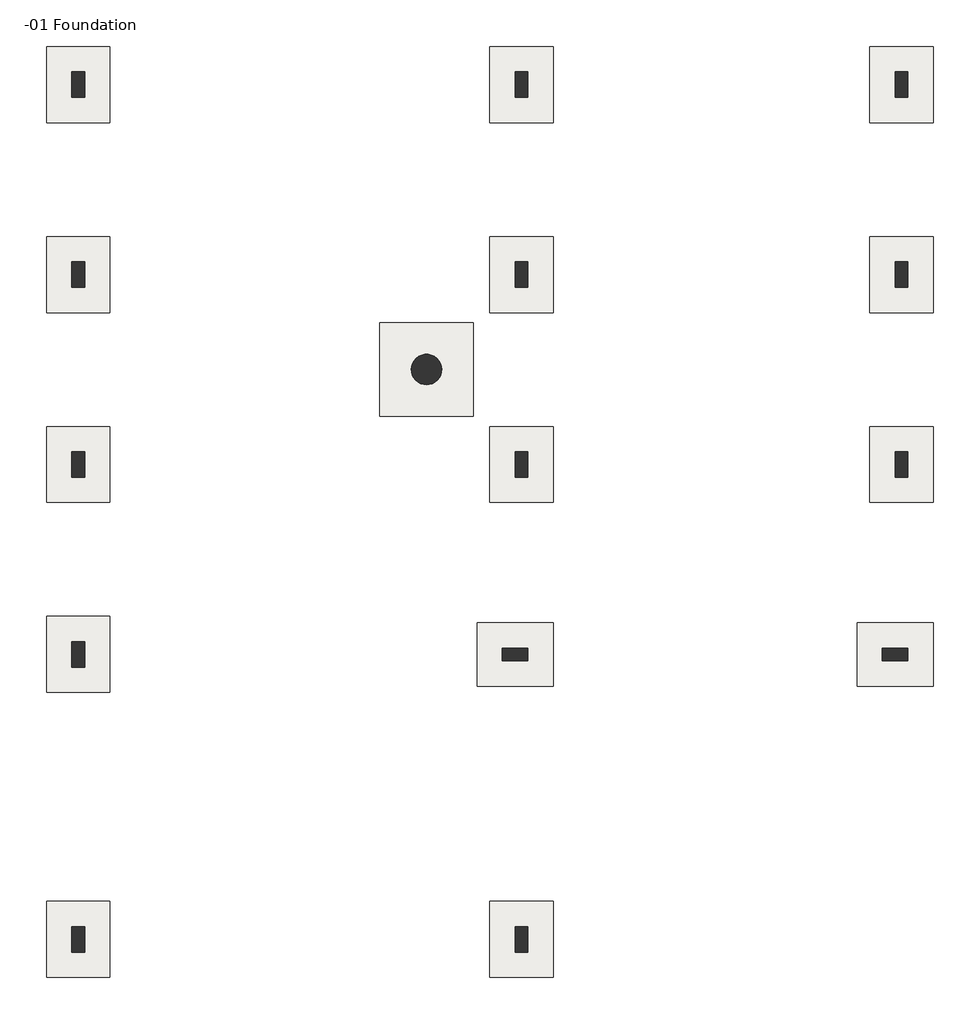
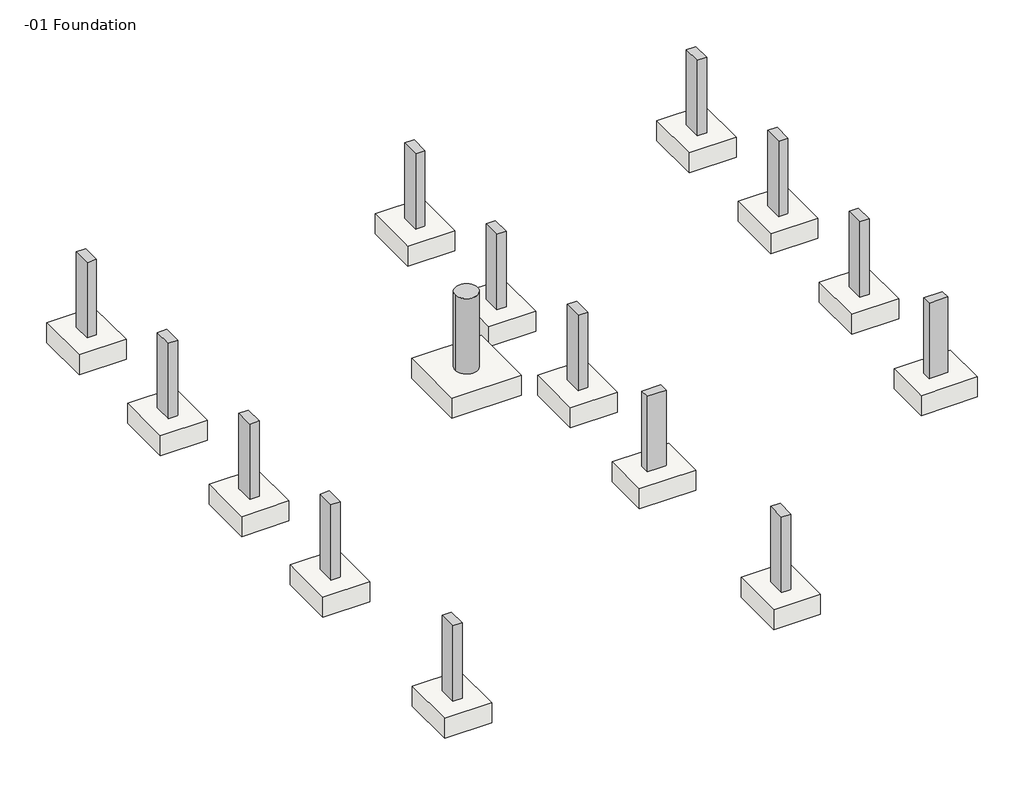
# One storey: 15 columns, 15 slabs.
"""IFC4 building model written with IfcOpenShell, lengths in millimetres."""

import ifcopenshell
import ifcopenshell.guid

model = None  # the IFC model being written
_history = None  # IfcOwnerHistory: only IFC2X3 demands one
_inside = {}  # id of a spatial element -> (the spatial element, [elements in it])
_under = {}  # id of a project, library or spatial element -> (it, [spatial elements below it])
_declared = {}  # id of a project -> (the project, [libraries it declares])
_typed = {}  # id of a type object -> (the type object, [elements of that type])
_made_of = {}  # id of a material, layer set ... -> (it, [elements and type objects made of it])


def new_model(schema):
    """Start an empty IFC model of exactly this schema.

    Asked for "IFC4X3", IfcOpenShell would pick the latest addendum, in which some entities
    have other attributes; the version numbers below select the first issue.
    IFC2X3 requires an IfcOwnerHistory on every rooted entity: one is made here for all.
    """
    global model, _history
    if schema == "IFC4X3":
        model = ifcopenshell.file(schema_version=(4, 3, 0, 0))
    else:
        model = ifcopenshell.file(schema=schema)
    _inside.clear()
    _under.clear()
    _declared.clear()
    _typed.clear()
    _made_of.clear()
    _history = None
    if model.schema == "IFC2X3":
        org = make("IfcOrganization", Name="unknown")
        user = make(
            "IfcPersonAndOrganization",
            ThePerson=make("IfcPerson", FamilyName="unknown"),
            TheOrganization=org,
        )
        app = make(
            "IfcApplication",
            ApplicationDeveloper=org,
            Version="unknown",
            ApplicationFullName="unknown",
            ApplicationIdentifier="unknown",
        )
        _history = make(
            "IfcOwnerHistory",
            OwningUser=user,
            OwningApplication=app,
            ChangeAction="ADDED",
            CreationDate=0,
        )
    return model


def make(cls, **values):
    """One entity of the class cls with the attributes given. An attribute that is None is left unset."""
    return model.create_entity(
        cls, **{name: value for name, value in values.items() if value is not None}
    )


def rooted(cls, **values):
    """An entity with a GlobalId (a new one), such as an element, a storey or a relation."""
    return make(cls, GlobalId=ifcopenshell.guid.new(), OwnerHistory=_history, **values)


def si_unit(unit_type, name, prefix=None):
    """IfcSIUnit, for example si_unit("LENGTHUNIT", "METRE", prefix="MILLI")."""
    return make("IfcSIUnit", UnitType=unit_type, Prefix=prefix, Name=name)


def assignment(units):
    """IfcUnitAssignment: the units of a project."""
    return None if units is None else make("IfcUnitAssignment", Units=units)


def point(xyz):
    """IfcCartesianPoint."""
    return None if xyz is None else make("IfcCartesianPoint", Coordinates=xyz)


def direction(xyz):
    """IfcDirection."""
    return None if xyz is None else make("IfcDirection", DirectionRatios=xyz)


def frame(location, z_axis=None, x_axis=None):
    """IfcAxis2Placement3D, a coordinate frame: its origin and axes. An axis left out is left unset."""
    return make(
        "IfcAxis2Placement3D",
        Location=point(location),
        Axis=direction(z_axis),
        RefDirection=direction(x_axis),
    )


def frame_2d(location, x_axis=None):
    """IfcAxis2Placement2D, a coordinate frame in the plane: its origin and x axis."""
    return make(
        "IfcAxis2Placement2D", Location=point(location), RefDirection=direction(x_axis)
    )


def origin():
    """The frame at (0, 0, 0) with its axes left unset."""
    return frame((0.0, 0.0, 0.0))


def place(relative_to, where):
    """IfcLocalPlacement: puts the frame where relative to a parent placement (None: the world)."""
    return make(
        "IfcLocalPlacement", PlacementRelTo=relative_to, RelativePlacement=where
    )


def context(
    kind, dimensions, precision=None, world=None, true_north=None, identifier=None
):
    """IfcGeometricRepresentationContext, for example the 3D "Model" context."""
    return make(
        "IfcGeometricRepresentationContext",
        ContextIdentifier=identifier,
        ContextType=kind,
        CoordinateSpaceDimension=dimensions,
        Precision=precision,
        WorldCoordinateSystem=world,
        TrueNorth=true_north,
    )


def project(units=None, contexts=None):
    """IfcProject with its units and contexts."""
    return rooted(
        "IfcProject",
        Name="project",
        RepresentationContexts=contexts,
        UnitsInContext=assignment(units),
    )


def spatial(cls, under=None, at=None, **own):
    """A site, building, storey or space (cls), placed at a placement, below another one or the project."""
    s = rooted(cls, ObjectPlacement=at, **own)
    if under is not None:
        _under.setdefault(under.id(), (under, []))[1].append(s)
    return s


def polyline(points):
    """IfcPolyline through the points."""
    return make("IfcPolyline", Points=[point(p) for p in points])


def circle_curve(where, radius):
    """IfcCircle in the frame where."""
    return make("IfcCircle", Position=where, Radius=radius)


def trimmed(basis, trim1, trim2, sense, master):
    """IfcTrimmedCurve: the piece of a basis curve between two trims."""
    return make(
        "IfcTrimmedCurve",
        BasisCurve=basis,
        Trim1=trim1,
        Trim2=trim2,
        SenseAgreement=sense,
        MasterRepresentation=master,
    )


def segment(curve, same_sense, transition):
    """IfcCompositeCurveSegment."""
    return make(
        "IfcCompositeCurveSegment",
        Transition=transition,
        SameSense=same_sense,
        ParentCurve=curve,
    )


def composite_curve(segments, self_intersect=None):
    """IfcCompositeCurve: segments joined end to end."""
    return make("IfcCompositeCurve", Segments=segments, SelfIntersect=self_intersect)


def outline(outer, holes=None, kind="AREA"):
    """IfcArbitraryClosedProfileDef: a profile drawn as a closed curve; with holes, ...WithVoids."""
    if holes is None:
        return make("IfcArbitraryClosedProfileDef", ProfileType=kind, OuterCurve=outer)
    return make(
        "IfcArbitraryProfileDefWithVoids",
        ProfileType=kind,
        OuterCurve=outer,
        InnerCurves=holes,
    )


def extrude(swept, where, along, depth):
    """IfcExtrudedAreaSolid: the profile swept, set in the frame where, extruded along a direction by depth."""
    return make(
        "IfcExtrudedAreaSolid",
        SweptArea=swept,
        Position=where,
        ExtrudedDirection=direction(along),
        Depth=depth,
    )


def shape(context_of_items, identifier, shape_type, items):
    """IfcShapeRepresentation: the items that make up one representation, for example the "Body"."""
    return make(
        "IfcShapeRepresentation",
        ContextOfItems=context_of_items,
        RepresentationIdentifier=identifier,
        RepresentationType=shape_type,
        Items=items,
    )


def source(mapping_origin, context_of_items, identifier, shape_type, items):
    """IfcRepresentationMap: a shape defined once, which mapped items show again and again."""
    return make(
        "IfcRepresentationMap",
        MappingOrigin=mapping_origin,
        MappedRepresentation=shape(context_of_items, identifier, shape_type, items),
    )


def transform(
    local_origin,
    x_axis=None,
    y_axis=None,
    z_axis=None,
    scale=None,
    scale2=None,
    scale3=None,
    uniform=True,
):
    """IfcCartesianTransformationOperator3D, or its non-uniform kind. x_axis, y_axis, z_axis: its Axis1, 2, 3."""
    if uniform:
        return make(
            "IfcCartesianTransformationOperator3D",
            Axis1=direction(x_axis),
            Axis2=direction(y_axis),
            LocalOrigin=point(local_origin),
            Scale=scale,
            Axis3=direction(z_axis),
        )
    return make(
        "IfcCartesianTransformationOperator3DnonUniform",
        Axis1=direction(x_axis),
        Axis2=direction(y_axis),
        LocalOrigin=point(local_origin),
        Scale=scale,
        Axis3=direction(z_axis),
        Scale2=scale2,
        Scale3=scale3,
    )


def mapped(mapping_source, mapping_target):
    """IfcMappedItem: shows the shape of a source again, moved by a transform."""
    return make(
        "IfcMappedItem", MappingSource=mapping_source, MappingTarget=mapping_target
    )


def made_of(thing, what):
    """Note that an element or type object is made of a material, layer set ...; save() writes the relation."""
    if what is not None:
        _made_of.setdefault(what.id(), (what, []))[1].append(thing)
    return thing


def element(
    cls,
    number,
    at=None,
    inside=None,
    cuts=None,
    type_object=None,
    material=None,
    context=None,
    identifier="Body",
    shape_type=None,
    held_by="IfcProductDefinitionShape",
    body=None,
    shapes=None,
    **own,
):
    """One element of the class cls, such as IfcWall. Its Tag is "e" and its number.

    at: its placement. inside: the storey or other place that contains it. cuts: it is an
    opening in that element (IfcRelVoidsElement). A single representation is given by context,
    identifier, shape_type and body (its items); several are given by shapes. held_by: the class
    of the entity that holds the representations. save() writes the other relations.
    """
    e = rooted(cls, Tag="e%d" % number, ObjectPlacement=at, **own)
    if body is not None:
        shapes = [shape(context, identifier, shape_type, body)]
    if shapes is not None:
        e.Representation = make(held_by, Representations=shapes)
    if inside is not None:
        _inside.setdefault(inside.id(), (inside, []))[1].append(e)
    if cuts is not None:
        rooted(
            "IfcRelVoidsElement", RelatingBuildingElement=cuts, RelatedOpeningElement=e
        )
    if type_object is not None:
        _typed.setdefault(type_object.id(), (type_object, []))[1].append(e)
    return made_of(e, material)


def aggregate(whole, parts):
    """IfcRelAggregates: a whole, such as a stair, and the parts it consists of."""
    return rooted("IfcRelAggregates", RelatingObject=whole, RelatedObjects=parts)


def save(model, path):
    """Write the relations noted so far, then the file.

    IfcRelAggregates (storeys below a building ...), IfcRelContainedInSpatialStructure (elements
    in a storey), IfcRelDefinesByType, IfcRelAssociatesMaterial and IfcRelDeclares: one each for
    every whole, place, type object, material and project.
    """
    for whole, parts in _under.values():
        aggregate(whole, parts)
    for where, things in _inside.values():
        rooted(
            "IfcRelContainedInSpatialStructure",
            RelatedElements=things,
            RelatingStructure=where,
        )
    for kind, things in _typed.values():
        rooted("IfcRelDefinesByType", RelatedObjects=things, RelatingType=kind)
    for what, things in _made_of.values():
        rooted("IfcRelAssociatesMaterial", RelatedObjects=things, RelatingMaterial=what)
    for by, libraries in _declared.values():
        rooted("IfcRelDeclares", RelatingContext=by, RelatedDefinitions=libraries)
    model.write(path)


def m_footing_rectangular_1000_x_1200_x_450mm_b4386320(model_context):
    return source(origin(), model_context, "Body", "SweptSolid", [
        extrude(outline(polyline([(600.0, 500.0), (600.0, -500.0), (-600.0, -500.0), (-600.0, 500.0), (600.0, 500.0)])), frame((0.0, 0.0, -450.0), z_axis=(0.0, 0.0, 1.0), x_axis=(1.0, 0.0, 0.0)), (0.0, 0.0, 1.0), 450.0),
    ])


def m_footing_rectangular_1480_x_1480_x_450mm_d3d8ddf0(model_context):
    return source(origin(), model_context, "Body", "SweptSolid", [
        extrude(outline(polyline([(740.0, 740.0), (740.0, -740.0), (-740.0, -740.0), (-740.0, 740.0), (740.0, 740.0)])), frame((0.0, 0.0, -450.0), z_axis=(0.0, 0.0, 1.0), x_axis=(1.0, 0.0, 0.0)), (0.0, 0.0, 1.0), 450.0),
    ])


model = new_model("IFC4")

# Units and contexts
model_context = context("Model", 3, world=origin())
ifc_project = project(units=[si_unit("LENGTHUNIT", "METRE", prefix="MILLI")], contexts=[model_context])

# Site, building, storey
site = spatial("IfcSite", under=ifc_project)
building = spatial("IfcBuilding", under=site)
storey = spatial("IfcBuildingStorey", under=building, Name="-01 Foundation", Elevation=-2000.0)

# Columns
placement = place(None, origin())
element("IfcColumn", 1, ObjectType="M_Concrete-Rectangular-Column : 200 x 400mm", at=placement, inside=storey, context=model_context, shape_type="SweptSolid", body=[
    extrude(outline(polyline([(-8122.5407999, 6337.2898352), (-8122.5407999, 5937.2898352), (-8322.5407999, 5937.2898352), (-8322.5407999, 6337.2898352), (-8122.5407999, 6337.2898352)])), frame((0.0, 0.0, -2000.0), z_axis=(0.0, 0.0, 1.0), x_axis=(1.0, 0.0, 0.0)), (0.0, 0.0, 1.0), 1700.0),
])
element("IfcColumn", 2, ObjectType="M_Concrete-Rectangular-Column : 200 x 400mm", at=placement, inside=storey, context=model_context, shape_type="SweptSolid", body=[
    extrude(outline(polyline([(-8122.5407999, 3337.2898352), (-8122.5407999, 2937.2898352), (-8322.5407999, 2937.2898352), (-8322.5407999, 3337.2898352), (-8122.5407999, 3337.2898352)])), frame((0.0, 0.0, -2000.0), z_axis=(0.0, 0.0, 1.0), x_axis=(1.0, 0.0, 0.0)), (0.0, 0.0, 1.0), 1700.0),
])
element("IfcColumn", 3, ObjectType="M_Concrete-Rectangular-Column : 200 x 400mm", at=placement, inside=storey, context=model_context, shape_type="SweptSolid", body=[
    extrude(outline(polyline([(-8122.5407999, 337.2898352), (-8122.5407999, -62.7101648), (-8322.5407999, -62.7101648), (-8322.5407999, 337.2898352), (-8122.5407999, 337.2898352)])), frame((0.0, 0.0, -2000.0), z_axis=(0.0, 0.0, 1.0), x_axis=(1.0, 0.0, 0.0)), (0.0, 0.0, 1.0), 1700.0),
])
element("IfcColumn", 4, ObjectType="M_Concrete-Rectangular-Column : 200 x 400mm", at=placement, inside=storey, context=model_context, shape_type="SweptSolid", body=[
    extrude(outline(polyline([(-8122.5407999, -2662.7101648), (-8122.5407999, -3062.7101648), (-8322.5407999, -3062.7101648), (-8322.5407999, -2662.7101648), (-8122.5407999, -2662.7101648)])), frame((0.0, 0.0, -2000.0), z_axis=(0.0, 0.0, 1.0), x_axis=(1.0, 0.0, 0.0)), (0.0, 0.0, 1.0), 1700.0),
])
element("IfcColumn", 5, ObjectType="M_Concrete-Rectangular-Column : 200 x 400mm", at=placement, inside=storey, context=model_context, shape_type="SweptSolid", body=[
    extrude(outline(polyline([(-1122.5407999, 337.2898352), (-1122.5407999, -62.7101648), (-1322.5407999, -62.7101648), (-1322.5407999, 337.2898352), (-1122.5407999, 337.2898352)])), frame((0.0, 0.0, -2000.0), z_axis=(0.0, 0.0, 1.0), x_axis=(1.0, 0.0, 0.0)), (0.0, 0.0, 1.0), 1700.0),
])
element("IfcColumn", 6, ObjectType="M_Concrete-Rectangular-Column : 200 x 400mm", at=placement, inside=storey, context=model_context, shape_type="SweptSolid", body=[
    extrude(outline(polyline([(-1522.5407999, -2762.7101648), (-1122.5407999, -2762.7101648), (-1122.5407999, -2962.7101648), (-1522.5407999, -2962.7101648), (-1522.5407999, -2762.7101648)])), frame((0.0, 0.0, -2000.0), z_axis=(0.0, 0.0, 1.0), x_axis=(1.0, 0.0, 0.0)), (0.0, 0.0, 1.0), 1700.0),
])
element("IfcColumn", 7, ObjectType="M_Concrete-Rectangular-Column : 200 x 400mm", at=placement, inside=storey, context=model_context, shape_type="SweptSolid", body=[
    extrude(outline(polyline([(4877.4592001, 6337.2898352), (4877.4592001, 5937.2898352), (4677.4592001, 5937.2898352), (4677.4592001, 6337.2898352), (4877.4592001, 6337.2898352)])), frame((0.0, 0.0, -2000.0), z_axis=(0.0, 0.0, 1.0), x_axis=(1.0, 0.0, 0.0)), (0.0, 0.0, 1.0), 1700.0),
])
element("IfcColumn", 8, ObjectType="M_Concrete-Rectangular-Column : 200 x 400mm", at=placement, inside=storey, context=model_context, shape_type="SweptSolid", body=[
    extrude(outline(polyline([(-1122.5407999, 6337.2898352), (-1122.5407999, 5937.2898352), (-1322.5407999, 5937.2898352), (-1322.5407999, 6337.2898352), (-1122.5407999, 6337.2898352)])), frame((0.0, 0.0, -2000.0), z_axis=(0.0, 0.0, 1.0), x_axis=(1.0, 0.0, 0.0)), (0.0, 0.0, 1.0), 1700.0),
])
element("IfcColumn", 9, ObjectType="M_Concrete-Rectangular-Column : 200 x 400mm", at=placement, inside=storey, context=model_context, shape_type="SweptSolid", body=[
    extrude(outline(polyline([(-1122.5407999, 3337.2898352), (-1122.5407999, 2937.2898352), (-1322.5407999, 2937.2898352), (-1322.5407999, 3337.2898352), (-1122.5407999, 3337.2898352)])), frame((0.0, 0.0, -2000.0), z_axis=(0.0, 0.0, 1.0), x_axis=(1.0, 0.0, 0.0)), (0.0, 0.0, 1.0), 1700.0),
])
element("IfcColumn", 10, ObjectType="M_Concrete-Rectangular-Column : 200 x 400mm", at=placement, inside=storey, context=model_context, shape_type="SweptSolid", body=[
    extrude(outline(polyline([(4877.4592001, 3337.2898352), (4877.4592001, 2937.2898352), (4677.4592001, 2937.2898352), (4677.4592001, 3337.2898352), (4877.4592001, 3337.2898352)])), frame((0.0, 0.0, -2000.0), z_axis=(0.0, 0.0, 1.0), x_axis=(1.0, 0.0, 0.0)), (0.0, 0.0, 1.0), 1700.0),
])
element("IfcColumn", 11, ObjectType="M_Concrete-Rectangular-Column : 200 x 400mm", at=placement, inside=storey, context=model_context, shape_type="SweptSolid", body=[
    extrude(outline(polyline([(4477.4592001, -2762.7101648), (4877.4592001, -2762.7101648), (4877.4592001, -2962.7101648), (4477.4592001, -2962.7101648), (4477.4592001, -2762.7101648)])), frame((0.0, 0.0, -2000.0), z_axis=(0.0, 0.0, 1.0), x_axis=(1.0, 0.0, 0.0)), (0.0, 0.0, 1.0), 1700.0),
])
element("IfcColumn", 12, ObjectType="M_Concrete-Rectangular-Column : 200 x 400mm", at=placement, inside=storey, context=model_context, shape_type="SweptSolid", body=[
    extrude(outline(polyline([(4677.4592001, -62.7101648), (4677.4592001, 337.2898352), (4877.4592001, 337.2898352), (4877.4592001, -62.7101648), (4677.4592001, -62.7101648)])), frame((0.0, 0.0, -2000.0), z_axis=(0.0, 0.0, 1.0), x_axis=(1.0, 0.0, 0.0)), (0.0, 0.0, 1.0), 1700.0),
])
element("IfcColumn", 13, ObjectType="M_Concrete-Rectangular-Column : 200 x 400mm", at=placement, inside=storey, context=model_context, shape_type="SweptSolid", body=[
    extrude(outline(polyline([(-8122.5407999, -7162.7101648), (-8122.5407999, -7562.7101648), (-8322.5407999, -7562.7101648), (-8322.5407999, -7162.7101648), (-8122.5407999, -7162.7101648)])), frame((0.0, 0.0, -2000.0), z_axis=(0.0, 0.0, 1.0), x_axis=(1.0, 0.0, 0.0)), (0.0, 0.0, 1.0), 1700.0),
])
element("IfcColumn", 14, ObjectType="M_Concrete-Rectangular-Column : 200 x 400mm", at=placement, inside=storey, context=model_context, shape_type="SweptSolid", body=[
    extrude(outline(polyline([(-1122.5407999, -7162.7101648), (-1122.5407999, -7562.7101648), (-1322.5407999, -7562.7101648), (-1322.5407999, -7162.7101648), (-1122.5407999, -7162.7101648)])), frame((0.0, 0.0, -2000.0), z_axis=(0.0, 0.0, 1.0), x_axis=(1.0, 0.0, 0.0)), (0.0, 0.0, 1.0), 1700.0),
])
element("IfcColumn", 15, ObjectType="M_Concrete-Round-Column : 480mm", at=placement, inside=storey, context=model_context, shape_type="SweptSolid", body=[
    extrude(outline(composite_curve([segment(trimmed(circle_curve(frame_2d((-2722.5407999, 1637.2898352)), 240.0), [point((-2962.5407999, 1637.2898352))], [point((-2482.5407999, 1637.2898352))], False, "CARTESIAN"), True, "CONTINUOUS"), segment(trimmed(circle_curve(frame_2d((-2722.5407999, 1637.2898352)), 240.0), [point((-2482.5407999, 1637.2898352))], [point((-2962.5407999, 1637.2898352))], False, "CARTESIAN"), True, "CONTINUOUS")], self_intersect=False)), frame((0.0, 0.0, -2000.0), z_axis=(0.0, 0.0, 1.0), x_axis=(1.0, 0.0, 0.0)), (0.0, 0.0, 1.0), 1700.0),
])

# Slabs
m_footing_rectangular_1000_x_1200_x_450mm_shape = m_footing_rectangular_1000_x_1200_x_450mm_b4386320(model_context)
element("IfcSlab", 16, ObjectType="M_Footing-Rectangular : 1000 x 1200 x 450mm", at=placement, inside=storey, context=model_context, shape_type="MappedRepresentation", body=[
    mapped(m_footing_rectangular_1000_x_1200_x_450mm_shape, transform((-8222.5407999, 6137.2898352, -2000.0), x_axis=(0.0, 1.0, 0.0), y_axis=(-1.0, 0.0, 0.0), z_axis=(0.0, 0.0, 1.0))),
])
element("IfcSlab", 17, ObjectType="M_Footing-Rectangular : 1000 x 1200 x 450mm", at=placement, inside=storey, context=model_context, shape_type="MappedRepresentation", body=[
    mapped(m_footing_rectangular_1000_x_1200_x_450mm_shape, transform((-8222.5407999, 3137.2898352, -2000.0), x_axis=(0.0, 1.0, 0.0), y_axis=(-1.0, 0.0, 0.0), z_axis=(0.0, 0.0, 1.0))),
])
element("IfcSlab", 18, ObjectType="M_Footing-Rectangular : 1000 x 1200 x 450mm", at=placement, inside=storey, context=model_context, shape_type="MappedRepresentation", body=[
    mapped(m_footing_rectangular_1000_x_1200_x_450mm_shape, transform((-8222.5407999, 137.2898352, -2000.0), x_axis=(0.0, 1.0, 0.0), y_axis=(-1.0, 0.0, 0.0), z_axis=(0.0, 0.0, 1.0))),
])
element("IfcSlab", 19, ObjectType="M_Footing-Rectangular : 1000 x 1200 x 450mm", at=placement, inside=storey, context=model_context, shape_type="MappedRepresentation", body=[
    mapped(m_footing_rectangular_1000_x_1200_x_450mm_shape, transform((4677.4592001, -2862.7101648, -2000.0), x_axis=(-1.0, 0.0, 0.0), y_axis=(0.0, -1.0, 0.0), z_axis=(0.0, 0.0, 1.0))),
])
element("IfcSlab", 20, ObjectType="M_Footing-Rectangular : 1000 x 1200 x 450mm", at=placement, inside=storey, context=model_context, shape_type="MappedRepresentation", body=[
    mapped(m_footing_rectangular_1000_x_1200_x_450mm_shape, transform((-8222.5407999, -2862.7101648, -2000.0), x_axis=(0.0, 1.0, 0.0), y_axis=(-1.0, 0.0, 0.0), z_axis=(0.0, 0.0, 1.0))),
])
element("IfcSlab", 21, ObjectType="M_Footing-Rectangular : 1000 x 1200 x 450mm", at=placement, inside=storey, context=model_context, shape_type="MappedRepresentation", body=[
    mapped(m_footing_rectangular_1000_x_1200_x_450mm_shape, transform((-8222.5407999, -7362.7101648, -2000.0), x_axis=(0.0, 1.0, 0.0), y_axis=(-1.0, 0.0, 0.0), z_axis=(0.0, 0.0, 1.0))),
])
element("IfcSlab", 22, ObjectType="M_Footing-Rectangular : 1000 x 1200 x 450mm", at=placement, inside=storey, context=model_context, shape_type="MappedRepresentation", body=[
    mapped(m_footing_rectangular_1000_x_1200_x_450mm_shape, transform((-1222.5407999, -7362.7101648, -2000.0), x_axis=(0.0, 1.0, 0.0), y_axis=(-1.0, 0.0, 0.0), z_axis=(0.0, 0.0, 1.0))),
])
element("IfcSlab", 23, ObjectType="M_Footing-Rectangular : 1000 x 1200 x 450mm", at=placement, inside=storey, context=model_context, shape_type="MappedRepresentation", body=[
    mapped(m_footing_rectangular_1000_x_1200_x_450mm_shape, transform((-1322.5407999, -2862.7101648, -2000.0), x_axis=(-1.0, 0.0, 0.0), y_axis=(0.0, -1.0, 0.0), z_axis=(0.0, 0.0, 1.0))),
])
element("IfcSlab", 24, ObjectType="M_Footing-Rectangular : 1000 x 1200 x 450mm", at=placement, inside=storey, context=model_context, shape_type="MappedRepresentation", body=[
    mapped(m_footing_rectangular_1000_x_1200_x_450mm_shape, transform((-1222.5407999, 137.2898352, -2000.0), x_axis=(0.0, -1.0, 0.0), y_axis=(1.0, 0.0, 0.0), z_axis=(0.0, 0.0, 1.0))),
])
element("IfcSlab", 25, ObjectType="M_Footing-Rectangular : 1000 x 1200 x 450mm", at=placement, inside=storey, context=model_context, shape_type="MappedRepresentation", body=[
    mapped(m_footing_rectangular_1000_x_1200_x_450mm_shape, transform((-1222.5407999, 3137.2898352, -2000.0), x_axis=(0.0, -1.0, 0.0), y_axis=(1.0, 0.0, 0.0), z_axis=(0.0, 0.0, 1.0))),
])
element("IfcSlab", 26, ObjectType="M_Footing-Rectangular : 1000 x 1200 x 450mm", at=placement, inside=storey, context=model_context, shape_type="MappedRepresentation", body=[
    mapped(m_footing_rectangular_1000_x_1200_x_450mm_shape, transform((-1222.5407999, 6137.2898352, -2000.0), x_axis=(0.0, -1.0, 0.0), y_axis=(1.0, 0.0, 0.0), z_axis=(0.0, 0.0, 1.0))),
])
element("IfcSlab", 27, ObjectType="M_Footing-Rectangular : 1000 x 1200 x 450mm", at=placement, inside=storey, context=model_context, shape_type="MappedRepresentation", body=[
    mapped(m_footing_rectangular_1000_x_1200_x_450mm_shape, transform((4777.4592001, 6137.2898352, -2000.0), x_axis=(0.0, -1.0, 0.0), y_axis=(1.0, 0.0, 0.0), z_axis=(0.0, 0.0, 1.0))),
])
element("IfcSlab", 28, ObjectType="M_Footing-Rectangular : 1000 x 1200 x 450mm", at=placement, inside=storey, context=model_context, shape_type="MappedRepresentation", body=[
    mapped(m_footing_rectangular_1000_x_1200_x_450mm_shape, transform((4777.4592001, 3137.2898352, -2000.0), x_axis=(0.0, -1.0, 0.0), y_axis=(1.0, 0.0, 0.0), z_axis=(0.0, 0.0, 1.0))),
])
element("IfcSlab", 29, ObjectType="M_Footing-Rectangular : 1000 x 1200 x 450mm", at=placement, inside=storey, context=model_context, shape_type="MappedRepresentation", body=[
    mapped(m_footing_rectangular_1000_x_1200_x_450mm_shape, transform((4777.4592001, 137.2898352, -2000.0), x_axis=(0.0, -1.0, 0.0), y_axis=(1.0, 0.0, 0.0), z_axis=(0.0, 0.0, 1.0))),
])
m_footing_rectangular_1480_x_1480_x_450mm_shape = m_footing_rectangular_1480_x_1480_x_450mm_d3d8ddf0(model_context)
element("IfcSlab", 30, ObjectType="M_Footing-Rectangular : 1480 x 1480 x 450mm", at=placement, inside=storey, context=model_context, shape_type="MappedRepresentation", body=[
    mapped(m_footing_rectangular_1480_x_1480_x_450mm_shape, transform((-2722.5407999, 1637.2898352, -2000.0), x_axis=(1.0, 0.0, 0.0), y_axis=(0.0, 1.0, 0.0), z_axis=(0.0, 0.0, 1.0))),
])

save(model, "model.ifc")
